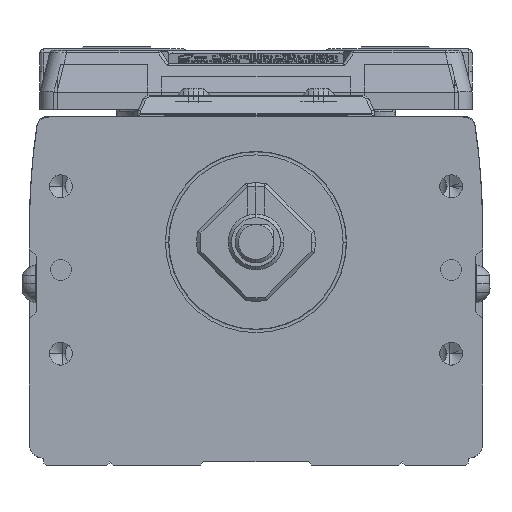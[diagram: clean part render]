
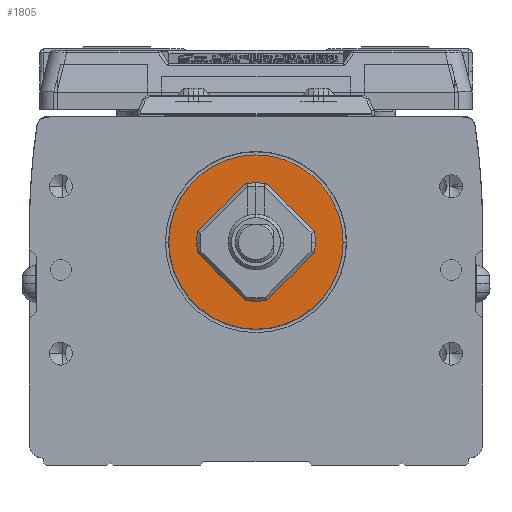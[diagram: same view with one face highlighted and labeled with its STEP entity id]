
A CAD part, left-side view. The second image highlights one B-rep face of the part: STEP entity #1805.
In plain terms, the highlighted planar face has unit normal (-1, 0, 0).
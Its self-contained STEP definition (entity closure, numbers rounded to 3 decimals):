
#1805=ADVANCED_FACE('',(#4267,#4268),#4269,.T.);
#4267=FACE_OUTER_BOUND('',#8873,.T.);
#4268=FACE_BOUND('',#8874,.T.);
#4269=PLANE('',#8875);
#8873=EDGE_LOOP('',(#17114,#17115));
#8874=EDGE_LOOP('',(#17116,#17117));
#8875=AXIS2_PLACEMENT_3D('',#17118,#17119,#17120);
#17114=ORIENTED_EDGE('',*,*,#27124,.T.);
#17115=ORIENTED_EDGE('',*,*,#27144,.T.);
#17116=ORIENTED_EDGE('',*,*,#27043,.F.);
#17117=ORIENTED_EDGE('',*,*,#27145,.F.);
#17118=CARTESIAN_POINT('',(-20.0,-0.036,-6.5));
#17119=DIRECTION('',(-1.0,0.,0.));
#17120=DIRECTION('',(0.,-1.0,0.));
#27043=EDGE_CURVE('',#32445,#32441,#32447,.T.);
#27124=EDGE_CURVE('',#32600,#32597,#32601,.T.);
#27144=EDGE_CURVE('',#32597,#32600,#32632,.T.);
#27145=EDGE_CURVE('',#32441,#32445,#32633,.T.);
#32441=VERTEX_POINT('',#40873);
#32445=VERTEX_POINT('',#40878);
#32447=CIRCLE('',#40881,4.0);
#32597=VERTEX_POINT('',#41373);
#32600=VERTEX_POINT('',#41376);
#32601=CIRCLE('',#41377,12.5);
#32632=CIRCLE('',#41416,12.5);
#32633=CIRCLE('',#41417,4.0);
#40873=CARTESIAN_POINT('',(-20.0,4.,0.));
#40878=CARTESIAN_POINT('',(-20.0,-4.,0.));
#40881=AXIS2_PLACEMENT_3D('',#50564,#50565,#50566);
#41373=CARTESIAN_POINT('',(-20.0,-12.5,0.));
#41376=CARTESIAN_POINT('',(-20.0,12.5,0.));
#41377=AXIS2_PLACEMENT_3D('',#50689,#50690,#50691);
#41416=AXIS2_PLACEMENT_3D('',#50733,#50734,#50735);
#41417=AXIS2_PLACEMENT_3D('',#50736,#50737,#50738);
#50564=CARTESIAN_POINT('',(-20.0,0.,0.));
#50565=DIRECTION('',(-1.0,0.,0.));
#50566=DIRECTION('',(0.,1.0,0.));
#50689=CARTESIAN_POINT('',(-20.0,0.,0.));
#50690=DIRECTION('',(-1.0,0.,0.));
#50691=DIRECTION('',(0.,-1.0,0.));
#50733=CARTESIAN_POINT('',(-20.0,0.,0.));
#50734=DIRECTION('',(-1.0,0.,0.));
#50735=DIRECTION('',(0.,-1.0,0.));
#50736=CARTESIAN_POINT('',(-20.0,0.,0.));
#50737=DIRECTION('',(-1.0,0.,0.));
#50738=DIRECTION('',(0.,1.0,0.));
